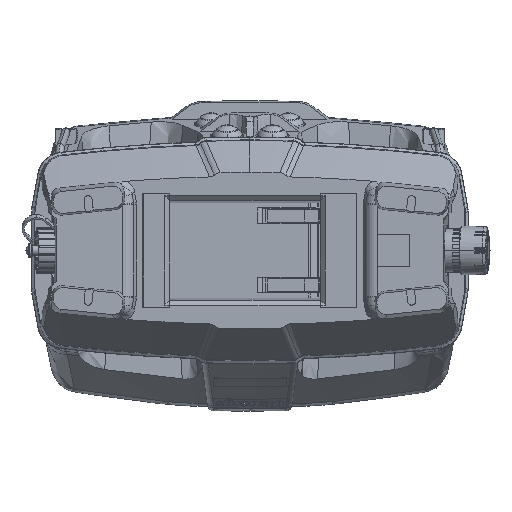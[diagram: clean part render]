
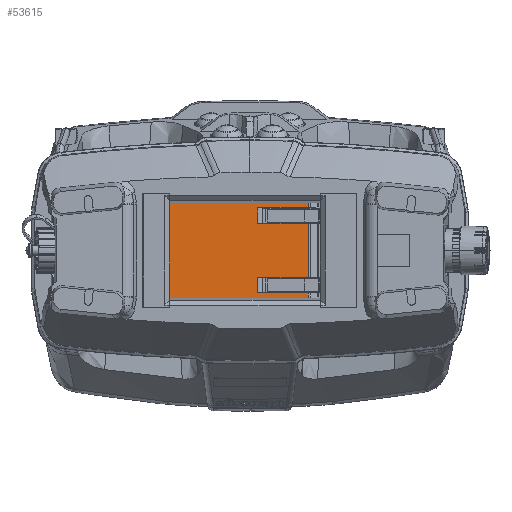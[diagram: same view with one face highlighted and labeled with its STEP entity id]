
A CAD part, front view. The second image highlights one B-rep face of the part: STEP entity #53615.
In plain terms, the highlighted planar face has unit normal (0, -1, 0).
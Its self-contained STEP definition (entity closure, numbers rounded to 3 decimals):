
#1269 = ORIENTED_EDGE ( 'NONE', *, *, #22583, .T. ) ;
#1488 = LINE ( 'NONE', #26647, #149743 ) ;
#4529 = VECTOR ( 'NONE', #32504, 1000. ) ;
#4630 = CARTESIAN_POINT ( 'NONE',  ( 36.147, -9.5, 16.732 ) ) ;
#4899 = VECTOR ( 'NONE', #17039, 1000. ) ;
#11013 = CARTESIAN_POINT ( 'NONE',  ( -52.518, -9.5, -30.75 ) ) ;
#12992 = EDGE_CURVE ( 'NONE', #173914, #111012, #159697, .T. ) ;
#15563 = ORIENTED_EDGE ( 'NONE', *, *, #61834, .T. ) ;
#17039 = DIRECTION ( 'NONE',  ( 0., 0., 1. ) ) ;
#17947 = CARTESIAN_POINT ( 'NONE',  ( 4.886, -9.5, 26.268 ) ) ;
#22583 = EDGE_CURVE ( 'NONE', #55202, #144035, #1488, .T. ) ;
#23135 = VECTOR ( 'NONE', #83340, 1000. ) ;
#24321 = CARTESIAN_POINT ( 'NONE',  ( -52.518, -9.5, 29.518 ) ) ;
#26133 = VECTOR ( 'NONE', #62873, 1000. ) ;
#26647 = CARTESIAN_POINT ( 'NONE',  ( -53.75, -9.5, 26.268 ) ) ;
#30384 = VECTOR ( 'NONE', #156953, 1000. ) ;
#30991 = DIRECTION ( 'NONE',  ( 1., 0., 0. ) ) ;
#32504 = DIRECTION ( 'NONE',  ( 0., 0., 1. ) ) ;
#35255 = LINE ( 'NONE', #125470, #30384 ) ;
#35408 = DIRECTION ( 'NONE',  ( 0., 0., 1. ) ) ;
#35656 = CARTESIAN_POINT ( 'NONE',  ( 36.147, -9.5, -16.732 ) ) ;
#36002 = LINE ( 'NONE', #112621, #88971 ) ;
#36103 = EDGE_CURVE ( 'NONE', #138679, #47468, #40879, .T. ) ;
#40780 = VERTEX_POINT ( 'NONE', #79279 ) ;
#40836 = DIRECTION ( 'NONE',  ( 1., 0., 0. ) ) ;
#40879 = LINE ( 'NONE', #143395, #78531 ) ;
#40924 = EDGE_CURVE ( 'NONE', #124449, #173914, #141316, .T. ) ;
#41352 = CARTESIAN_POINT ( 'NONE',  ( 36.147, -9.5, -26.268 ) ) ;
#42947 = ORIENTED_EDGE ( 'NONE', *, *, #36103, .T. ) ;
#43988 = CARTESIAN_POINT ( 'NONE',  ( 34.764, -9.5, -16.732 ) ) ;
#47468 = VERTEX_POINT ( 'NONE', #24321 ) ;
#50768 = CARTESIAN_POINT ( 'NONE',  ( 36.147, -9.5, 26.268 ) ) ;
#52843 = EDGE_CURVE ( 'NONE', #47468, #68599, #98239, .T. ) ;
#52964 = VECTOR ( 'NONE', #86541, 1000. ) ;
#53615 = ADVANCED_FACE ( 'NONE', ( #62690 ), #82356, .T. ) ;
#55202 = VERTEX_POINT ( 'NONE', #17947 ) ;
#57181 = DIRECTION ( 'NONE',  ( 1., 0., 0. ) ) ;
#59097 = CARTESIAN_POINT ( 'NONE',  ( 4.886, -9.5, 26.268 ) ) ;
#61834 = EDGE_CURVE ( 'NONE', #40780, #78370, #90964, .T. ) ;
#62690 = FACE_OUTER_BOUND ( 'NONE', #94096, .T. ) ;
#62873 = DIRECTION ( 'NONE',  ( 0., 0., 1. ) ) ;
#63738 = LINE ( 'NONE', #104194, #26133 ) ;
#68599 = VERTEX_POINT ( 'NONE', #96820 ) ;
#70973 = CARTESIAN_POINT ( 'NONE',  ( 4.886, -9.5, -16.732 ) ) ;
#72656 = LINE ( 'NONE', #143655, #140958 ) ;
#75587 = VECTOR ( 'NONE', #35408, 1000. ) ;
#76493 = ORIENTED_EDGE ( 'NONE', *, *, #12992, .T. ) ;
#78370 = VERTEX_POINT ( 'NONE', #41352 ) ;
#78531 = VECTOR ( 'NONE', #100190, 1000. ) ;
#79279 = CARTESIAN_POINT ( 'NONE',  ( 36.147, -9.5, -29.518 ) ) ;
#80548 = DIRECTION ( 'NONE',  ( 0., -1., 0. ) ) ;
#82356 = PLANE ( 'NONE',  #182420 ) ;
#83340 = DIRECTION ( 'NONE',  ( 0., 0., -1. ) ) ;
#85919 = CARTESIAN_POINT ( 'NONE',  ( 34.764, -9.5, -26.268 ) ) ;
#86541 = DIRECTION ( 'NONE',  ( 1., 0., 0. ) ) ;
#88971 = VECTOR ( 'NONE', #57181, 1000. ) ;
#90484 = LINE ( 'NONE', #85919, #52964 ) ;
#90964 = LINE ( 'NONE', #119914, #75587 ) ;
#94080 = ORIENTED_EDGE ( 'NONE', *, *, #141878, .F. ) ;
#94096 = EDGE_LOOP ( 'NONE', ( #172902, #97231, #171450, #76493, #94080, #108032, #1269, #157317, #42947, #153895, #126211, #15563 ) ) ;
#95837 = VERTEX_POINT ( 'NONE', #112618 ) ;
#96820 = CARTESIAN_POINT ( 'NONE',  ( -52.518, -9.5, -29.518 ) ) ;
#97231 = ORIENTED_EDGE ( 'NONE', *, *, #130048, .T. ) ;
#98239 = LINE ( 'NONE', #11013, #23135 ) ;
#100190 = DIRECTION ( 'NONE',  ( -1., 0., 0. ) ) ;
#101061 = DIRECTION ( 'NONE',  ( 0., 0., 1. ) ) ;
#104194 = CARTESIAN_POINT ( 'NONE',  ( 36.147, -9.5, 29.518 ) ) ;
#108032 = ORIENTED_EDGE ( 'NONE', *, *, #152684, .T. ) ;
#110614 = CARTESIAN_POINT ( 'NONE',  ( -53.75, -9.5, -30.75 ) ) ;
#111012 = VERTEX_POINT ( 'NONE', #126805 ) ;
#112372 = CARTESIAN_POINT ( 'NONE',  ( 36.147, -9.5, 29.518 ) ) ;
#112618 = CARTESIAN_POINT ( 'NONE',  ( 4.886, -9.5, 16.732 ) ) ;
#112621 = CARTESIAN_POINT ( 'NONE',  ( -53.75, -9.5, 16.732 ) ) ;
#119914 = CARTESIAN_POINT ( 'NONE',  ( 36.147, -9.5, -26.268 ) ) ;
#123927 = EDGE_CURVE ( 'NONE', #68599, #40780, #35255, .T. ) ;
#124449 = VERTEX_POINT ( 'NONE', #70973 ) ;
#125470 = CARTESIAN_POINT ( 'NONE',  ( -53.75, -9.5, -29.518 ) ) ;
#126211 = ORIENTED_EDGE ( 'NONE', *, *, #123927, .T. ) ;
#126805 = CARTESIAN_POINT ( 'NONE',  ( 36.147, -9.5, 16.732 ) ) ;
#129386 = EDGE_CURVE ( 'NONE', #175306, #78370, #90484, .T. ) ;
#130048 = EDGE_CURVE ( 'NONE', #175306, #124449, #72656, .T. ) ;
#134578 = VECTOR ( 'NONE', #30991, 1000. ) ;
#138679 = VERTEX_POINT ( 'NONE', #112372 ) ;
#138844 = CARTESIAN_POINT ( 'NONE',  ( 4.886, -9.5, -26.268 ) ) ;
#140958 = VECTOR ( 'NONE', #101061, 1000. ) ;
#141316 = LINE ( 'NONE', #43988, #134578 ) ;
#141878 = EDGE_CURVE ( 'NONE', #95837, #111012, #36002, .T. ) ;
#143395 = CARTESIAN_POINT ( 'NONE',  ( -53.75, -9.5, 29.518 ) ) ;
#143655 = CARTESIAN_POINT ( 'NONE',  ( 4.886, -9.5, -30.75 ) ) ;
#144035 = VERTEX_POINT ( 'NONE', #50768 ) ;
#146031 = LINE ( 'NONE', #59097, #4529 ) ;
#149743 = VECTOR ( 'NONE', #40836, 1000. ) ;
#152684 = EDGE_CURVE ( 'NONE', #95837, #55202, #146031, .T. ) ;
#153895 = ORIENTED_EDGE ( 'NONE', *, *, #52843, .T. ) ;
#156953 = DIRECTION ( 'NONE',  ( 1., 0., 0. ) ) ;
#157317 = ORIENTED_EDGE ( 'NONE', *, *, #167261, .T. ) ;
#159697 = LINE ( 'NONE', #4630, #4899 ) ;
#167261 = EDGE_CURVE ( 'NONE', #144035, #138679, #63738, .T. ) ;
#171450 = ORIENTED_EDGE ( 'NONE', *, *, #40924, .T. ) ;
#172902 = ORIENTED_EDGE ( 'NONE', *, *, #129386, .F. ) ;
#173914 = VERTEX_POINT ( 'NONE', #35656 ) ;
#175306 = VERTEX_POINT ( 'NONE', #138844 ) ;
#180511 = DIRECTION ( 'NONE',  ( 0., 0., -1. ) ) ;
#182420 = AXIS2_PLACEMENT_3D ( 'NONE', #110614, #80548, #180511 ) ;
